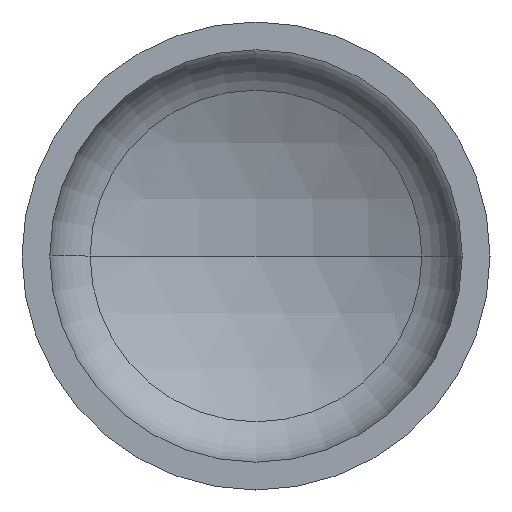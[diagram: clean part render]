
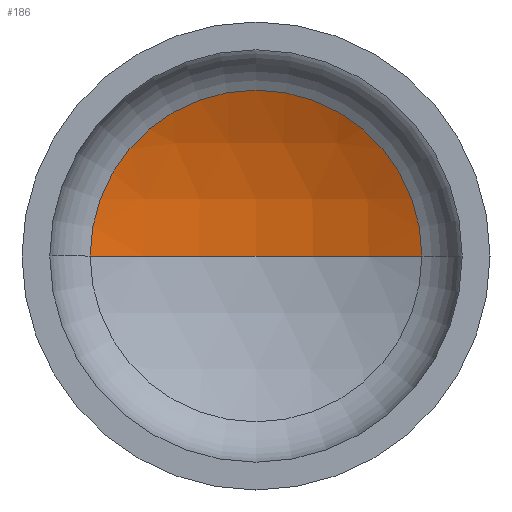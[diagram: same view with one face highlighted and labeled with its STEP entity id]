
A CAD part, front view. The second image highlights one B-rep face of the part: STEP entity #186.
In plain terms, the highlighted spherical face has radius 175 mm.
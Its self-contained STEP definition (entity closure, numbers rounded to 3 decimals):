
#3 = EDGE_LOOP ( 'NONE', ( #37, #24, #162 ) ) ;
#24 = ORIENTED_EDGE ( 'NONE', *, *, #227, .T. ) ;
#25 = DIRECTION ( 'NONE',  ( 1., 0., 0. ) ) ;
#30 = VERTEX_POINT ( 'NONE', #365 ) ;
#31 = VERTEX_POINT ( 'NONE', #274 ) ;
#32 = DIRECTION ( 'NONE',  ( 0., 0., 1. ) ) ;
#37 = ORIENTED_EDGE ( 'NONE', *, *, #233, .F. ) ;
#99 = VERTEX_POINT ( 'NONE', #226 ) ;
#113 = CIRCLE ( 'NONE', #117, 175. ) ;
#117 = AXIS2_PLACEMENT_3D ( 'NONE', #158, #32, #25 ) ;
#119 = AXIS2_PLACEMENT_3D ( 'NONE', #234, #231, #230 ) ;
#122 = CIRCLE ( 'NONE', #135, 77.633 ) ;
#135 = AXIS2_PLACEMENT_3D ( 'NONE', #258, #256, #272 ) ;
#158 = CARTESIAN_POINT ( 'NONE',  ( 0., -86.367, 0. ) ) ;
#162 = ORIENTED_EDGE ( 'NONE', *, *, #222, .T. ) ;
#167 = AXIS2_PLACEMENT_3D ( 'NONE', #171, #192, #324 ) ;
#171 = CARTESIAN_POINT ( 'NONE',  ( 0., -86.367, 0. ) ) ;
#186 = ADVANCED_FACE ( 'NONE', ( #341 ), #398, .F. ) ;
#192 = DIRECTION ( 'NONE',  ( 0., 0., -1. ) ) ;
#222 = EDGE_CURVE ( 'NONE', #30, #99, #122, .T. ) ;
#226 = CARTESIAN_POINT ( 'NONE',  ( -77.633, 70.471, 0. ) ) ;
#227 = EDGE_CURVE ( 'NONE', #31, #30, #384, .T. ) ;
#230 = DIRECTION ( 'NONE',  ( -1., 0., 0. ) ) ;
#231 = DIRECTION ( 'NONE',  ( 0., 0., -1. ) ) ;
#233 = EDGE_CURVE ( 'NONE', #31, #99, #113, .T. ) ;
#234 = CARTESIAN_POINT ( 'NONE',  ( 0., -86.367, 0. ) ) ;
#256 = DIRECTION ( 'NONE',  ( 0., -1., 0. ) ) ;
#258 = CARTESIAN_POINT ( 'NONE',  ( 0., 70.471, 0. ) ) ;
#272 = DIRECTION ( 'NONE',  ( 1., 0., 0. ) ) ;
#274 = CARTESIAN_POINT ( 'NONE',  ( 0., 88.633, 0. ) ) ;
#324 = DIRECTION ( 'NONE',  ( -1., 0., 0. ) ) ;
#341 = FACE_OUTER_BOUND ( 'NONE', #3, .T. ) ;
#365 = CARTESIAN_POINT ( 'NONE',  ( 77.633, 70.471, 0. ) ) ;
#384 = CIRCLE ( 'NONE', #119, 175. ) ;
#398 = SPHERICAL_SURFACE ( 'NONE', #167, 175. ) ;
